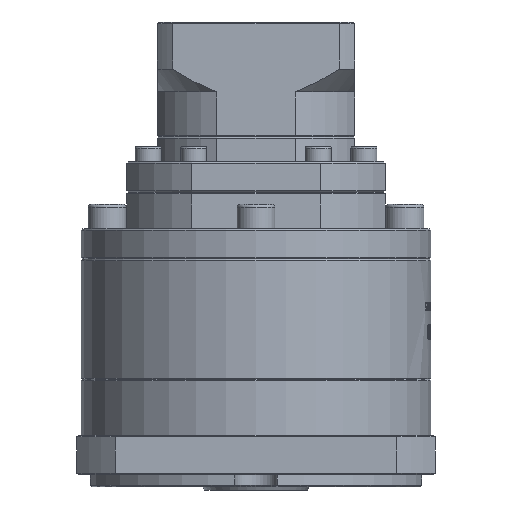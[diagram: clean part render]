
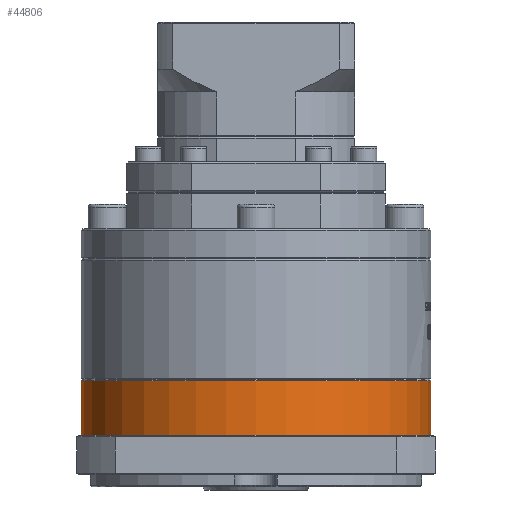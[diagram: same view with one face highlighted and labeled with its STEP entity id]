
A CAD part, front view. The second image highlights one B-rep face of the part: STEP entity #44806.
In plain terms, the highlighted cylindrical face has radius 57.5 mm (diameter 115 mm), a partial arc.
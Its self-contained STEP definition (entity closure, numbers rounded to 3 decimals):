
#1162 = CARTESIAN_POINT ( 'NONE',  ( -63.336, 32.367, -102.205 ) ) ;
#5127 = CIRCLE ( 'NONE', #11928, 57.5 ) ;
#9931 = DIRECTION ( 'NONE',  ( -1., 0., 0. ) ) ;
#9995 = ORIENTED_EDGE ( 'NONE', *, *, #20457, .F. ) ;
#11928 = AXIS2_PLACEMENT_3D ( 'NONE', #1162, #62035, #9931 ) ;
#16937 = AXIS2_PLACEMENT_3D ( 'NONE', #88317, #36206, #97080 ) ;
#20457 = EDGE_CURVE ( 'NONE', #81414, #75916, #99171, .T. ) ;
#21409 = ORIENTED_EDGE ( 'NONE', *, *, #30956, .T. ) ;
#27301 = CARTESIAN_POINT ( 'NONE',  ( -5.836, 32.367, -120.205 ) ) ;
#30956 = EDGE_CURVE ( 'NONE', #82298, #106963, #55029, .T. ) ;
#31917 = VECTOR ( 'NONE', #67485, 1000. ) ;
#36206 = DIRECTION ( 'NONE',  ( 0., 0., 1. ) ) ;
#38594 = EDGE_CURVE ( 'NONE', #75916, #106963, #5127, .T. ) ;
#38642 = DIRECTION ( 'NONE',  ( 0., 0., 1. ) ) ;
#44806 = ADVANCED_FACE ( 'NONE', ( #56182 ), #83982, .T. ) ;
#47702 = AXIS2_PLACEMENT_3D ( 'NONE', #100591, #83085, #100976 ) ;
#48337 = CARTESIAN_POINT ( 'NONE',  ( -120.836, 32.367, -120.205 ) ) ;
#52059 = CARTESIAN_POINT ( 'NONE',  ( -5.836, 32.367, -102.205 ) ) ;
#55029 = LINE ( 'NONE', #102107, #31917 ) ;
#56182 = FACE_OUTER_BOUND ( 'NONE', #95847, .T. ) ;
#62035 = DIRECTION ( 'NONE',  ( 0., 0., 1. ) ) ;
#66653 = ORIENTED_EDGE ( 'NONE', *, *, #38594, .F. ) ;
#67485 = DIRECTION ( 'NONE',  ( 0., 0., 1. ) ) ;
#69357 = ORIENTED_EDGE ( 'NONE', *, *, #86382, .T. ) ;
#75916 = VERTEX_POINT ( 'NONE', #102749 ) ;
#75957 = VECTOR ( 'NONE', #38642, 1000. ) ;
#81414 = VERTEX_POINT ( 'NONE', #48337 ) ;
#82298 = VERTEX_POINT ( 'NONE', #27301 ) ;
#82577 = CIRCLE ( 'NONE', #16937, 57.5 ) ;
#83085 = DIRECTION ( 'NONE',  ( 0., 0., 1. ) ) ;
#83982 = CYLINDRICAL_SURFACE ( 'NONE', #47702, 57.5 ) ;
#86382 = EDGE_CURVE ( 'NONE', #81414, #82298, #82577, .T. ) ;
#88317 = CARTESIAN_POINT ( 'NONE',  ( -63.336, 32.367, -120.205 ) ) ;
#95847 = EDGE_LOOP ( 'NONE', ( #9995, #69357, #21409, #66653 ) ) ;
#97080 = DIRECTION ( 'NONE',  ( 1., 0., 0. ) ) ;
#98447 = CARTESIAN_POINT ( 'NONE',  ( -120.836, 32.367, -120.205 ) ) ;
#99171 = LINE ( 'NONE', #98447, #75957 ) ;
#100591 = CARTESIAN_POINT ( 'NONE',  ( -63.336, 32.367, -120.205 ) ) ;
#100976 = DIRECTION ( 'NONE',  ( 1., 0., 0. ) ) ;
#102107 = CARTESIAN_POINT ( 'NONE',  ( -5.836, 32.367, -120.205 ) ) ;
#102749 = CARTESIAN_POINT ( 'NONE',  ( -120.836, 32.367, -102.205 ) ) ;
#106963 = VERTEX_POINT ( 'NONE', #52059 ) ;
